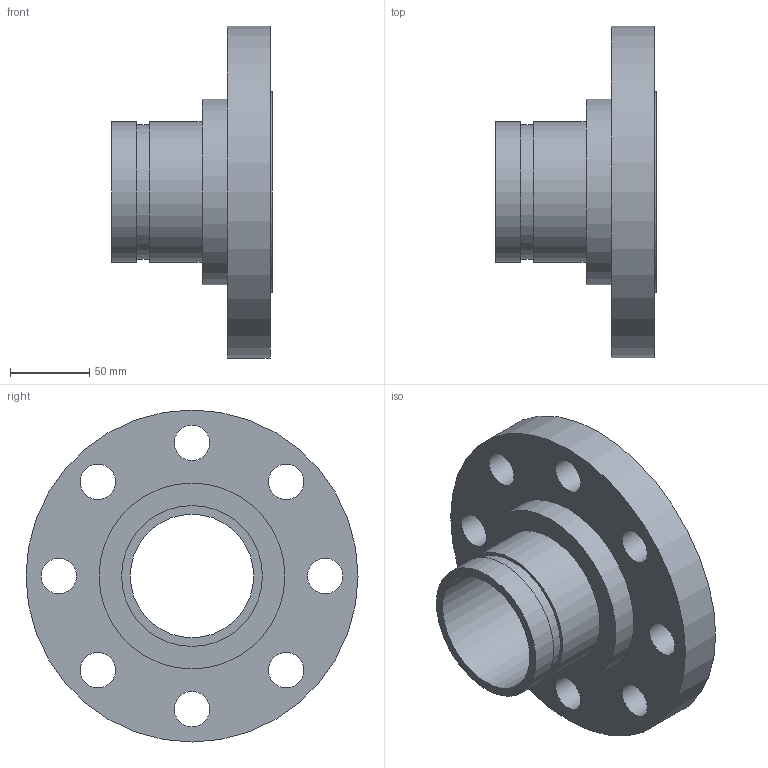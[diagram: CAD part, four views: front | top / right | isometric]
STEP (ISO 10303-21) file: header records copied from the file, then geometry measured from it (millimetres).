
FILE_DESCRIPTION(/* description */ ('VIC FLANGE ADAPTER No 46R','CAx-IF Rec.Pracs.---Representation and Presentation of Product Manufacturing Information (PMI)---4.0---2014-10-13'),/* implementation_level */ '2;1');
FILE_NAME(/* name */ 'C:\Users\kkamble\AppData\Roaming\Autodesk\ApplicationPlugins\Back Up\Victaulic_IPS_Flanged Adapter Nipple_CL 300 RF_No 46R (OGSxFLG)\Victaulic_IPS_Flanged Adapter Nipple_CL 300 RF_No 46R (OGSxFLG)_3 (80).stp',/* time_stamp */ '2020-07-26T22:25:43+06:00',/* author */ ('CONSTRUCTION PIPING SERVICES'),/* organization */ ('Victaulic'),/* preprocessor_version */ 'ST-DEVELOPER v17.2',/* originating_system */ 'Autodesk Inventor 2019',/* authorisation */ '');
FILE_SCHEMA (('AP242_MANAGED_MODEL_BASED_3D_ENGINEERING_MIM_LF { 1 0 10303 442 1 1 4 }'));
Length unit declared in the file: inch
Products named in the file (1): 046R-03.0
Bounding box: 101.6 x 209.55 x 209.55 mm (x, y, z)
Volume: 902266.2 mm3; surface area: 134332.9 mm2
Topology: 1 solids, 1 shells, 22 faces, 59 edges, 44 vertices
Faces by surface type: cylinder 15, plane 7
Full cylindrical faces by diameter (mm): 22.352 x8, 77.927 x1, 84.938 x1, 88.9 x2, 117.348 x1, 127 x1, 209.55 x1
Entity records: 849 total; most frequent: DIRECTION 149, CARTESIAN_POINT 126, ORIENTED_EDGE 118, AXIS2_PLACEMENT_3D 67, EDGE_CURVE 59, EDGE_LOOP 45, CIRCLE 44, VERTEX_POINT 44
